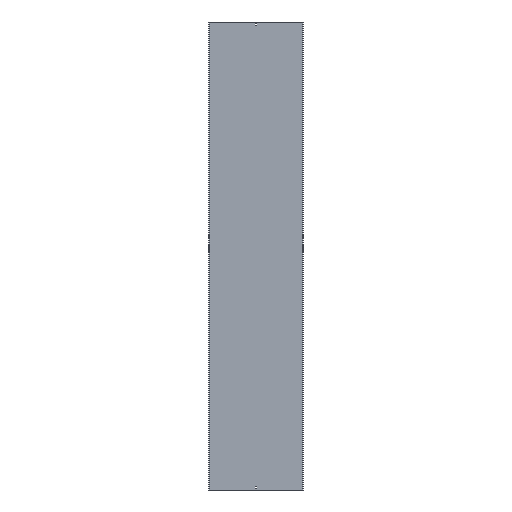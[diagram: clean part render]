
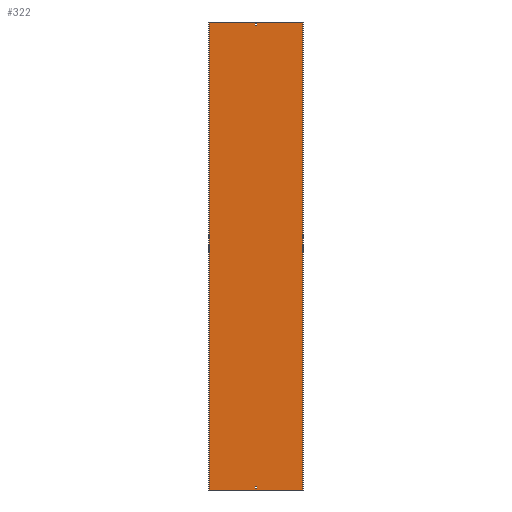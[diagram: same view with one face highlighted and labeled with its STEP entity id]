
A CAD part, front view. The second image highlights one B-rep face of the part: STEP entity #322.
In plain terms, the highlighted planar face has unit normal (0, -1, 0).
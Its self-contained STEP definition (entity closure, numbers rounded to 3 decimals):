
#8 = CARTESIAN_POINT ( 'NONE',  ( -301.5, -1.5, 1479. ) ) ;
#11 = EDGE_CURVE ( 'NONE', #581, #128, #209, .T. ) ;
#12 = FACE_BOUND ( 'NONE', #102, .T. ) ;
#14 = CARTESIAN_POINT ( 'NONE',  ( 300., -1.5, 1500. ) ) ;
#16 = FACE_BOUND ( 'NONE', #182, .T. ) ;
#19 = DIRECTION ( 'NONE',  ( 0., 0., -1. ) ) ;
#21 = ORIENTED_EDGE ( 'NONE', *, *, #11, .T. ) ;
#22 = DIRECTION ( 'NONE',  ( -1., 0., 0. ) ) ;
#28 = VECTOR ( 'NONE', #289, 1000. ) ;
#30 = CARTESIAN_POINT ( 'NONE',  ( -301.5, -1.5, -1488. ) ) ;
#43 = CARTESIAN_POINT ( 'NONE',  ( -3.25, -1.5, -1488. ) ) ;
#47 = CARTESIAN_POINT ( 'NONE',  ( -300., -1.5, -1500. ) ) ;
#48 = AXIS2_PLACEMENT_3D ( 'NONE', #426, #301, #114 ) ;
#52 = EDGE_CURVE ( 'NONE', #200, #443, #574, .T. ) ;
#54 = VECTOR ( 'NONE', #147, 1000. ) ;
#60 = ORIENTED_EDGE ( 'NONE', *, *, #71, .T. ) ;
#71 = EDGE_CURVE ( 'NONE', #445, #80, #82, .T. ) ;
#80 = VERTEX_POINT ( 'NONE', #47 ) ;
#82 = LINE ( 'NONE', #448, #54 ) ;
#90 = CARTESIAN_POINT ( 'NONE',  ( 3.25, -1.5, 1500. ) ) ;
#91 = CARTESIAN_POINT ( 'NONE',  ( 3.25, -1.5, 1479. ) ) ;
#101 = ORIENTED_EDGE ( 'NONE', *, *, #586, .F. ) ;
#102 = EDGE_LOOP ( 'NONE', ( #217, #21, #565, #494 ) ) ;
#108 = VECTOR ( 'NONE', #248, 1000. ) ;
#110 = FACE_OUTER_BOUND ( 'NONE', #529, .T. ) ;
#112 = VECTOR ( 'NONE', #485, 1000. ) ;
#114 = DIRECTION ( 'NONE',  ( 0., 0., -1. ) ) ;
#128 = VERTEX_POINT ( 'NONE', #267 ) ;
#141 = CARTESIAN_POINT ( 'NONE',  ( 3.25, -1.5, 1500. ) ) ;
#147 = DIRECTION ( 'NONE',  ( 0., 0., -1. ) ) ;
#148 = CARTESIAN_POINT ( 'NONE',  ( -3.25, -1.5, 1488. ) ) ;
#152 = EDGE_CURVE ( 'NONE', #370, #445, #551, .T. ) ;
#171 = LINE ( 'NONE', #440, #108 ) ;
#182 = EDGE_LOOP ( 'NONE', ( #520, #386, #101, #342 ) ) ;
#191 = DIRECTION ( 'NONE',  ( 0., 0., -1. ) ) ;
#193 = PLANE ( 'NONE',  #48 ) ;
#195 = VECTOR ( 'NONE', #22, 1000. ) ;
#198 = CARTESIAN_POINT ( 'NONE',  ( 300., -1.5, 1500. ) ) ;
#200 = VERTEX_POINT ( 'NONE', #511 ) ;
#209 = LINE ( 'NONE', #539, #376 ) ;
#217 = ORIENTED_EDGE ( 'NONE', *, *, #477, .T. ) ;
#221 = VECTOR ( 'NONE', #466, 1000. ) ;
#248 = DIRECTION ( 'NONE',  ( -1., 0., 0. ) ) ;
#255 = VERTEX_POINT ( 'NONE', #91 ) ;
#267 = CARTESIAN_POINT ( 'NONE',  ( -3.25, -1.5, -1479. ) ) ;
#279 = DIRECTION ( 'NONE',  ( 0., 0., 1. ) ) ;
#283 = VERTEX_POINT ( 'NONE', #334 ) ;
#289 = DIRECTION ( 'NONE',  ( 1., 0., 0. ) ) ;
#290 = ORIENTED_EDGE ( 'NONE', *, *, #152, .T. ) ;
#293 = EDGE_CURVE ( 'NONE', #443, #484, #298, .T. ) ;
#298 = LINE ( 'NONE', #348, #461 ) ;
#301 = DIRECTION ( 'NONE',  ( 0., -1., 0. ) ) ;
#305 = CARTESIAN_POINT ( 'NONE',  ( -301.5, -1.5, -1479. ) ) ;
#316 = DIRECTION ( 'NONE',  ( 0., 0., 1. ) ) ;
#319 = VECTOR ( 'NONE', #279, 1000. ) ;
#322 = ADVANCED_FACE ( 'NONE', ( #16, #110, #12 ), #193, .T. ) ;
#329 = LINE ( 'NONE', #90, #319 ) ;
#334 = CARTESIAN_POINT ( 'NONE',  ( 3.25, -1.5, -1479. ) ) ;
#337 = EDGE_CURVE ( 'NONE', #128, #283, #530, .T. ) ;
#341 = CARTESIAN_POINT ( 'NONE',  ( 300., -1.5, -1500. ) ) ;
#342 = ORIENTED_EDGE ( 'NONE', *, *, #396, .F. ) ;
#348 = CARTESIAN_POINT ( 'NONE',  ( -3.25, -1.5, 1500. ) ) ;
#356 = ORIENTED_EDGE ( 'NONE', *, *, #410, .F. ) ;
#370 = VERTEX_POINT ( 'NONE', #198 ) ;
#371 = VECTOR ( 'NONE', #515, 1000. ) ;
#376 = VECTOR ( 'NONE', #316, 1000. ) ;
#378 = VECTOR ( 'NONE', #455, 1000. ) ;
#381 = CARTESIAN_POINT ( 'NONE',  ( -300., -1.5, 1500. ) ) ;
#383 = VERTEX_POINT ( 'NONE', #341 ) ;
#386 = ORIENTED_EDGE ( 'NONE', *, *, #52, .F. ) ;
#396 = EDGE_CURVE ( 'NONE', #484, #255, #557, .T. ) ;
#410 = EDGE_CURVE ( 'NONE', #370, #383, #559, .T. ) ;
#416 = VECTOR ( 'NONE', #191, 1000. ) ;
#420 = LINE ( 'NONE', #141, #371 ) ;
#426 = CARTESIAN_POINT ( 'NONE',  ( -301.5, -1.5, 1500. ) ) ;
#435 = EDGE_CURVE ( 'NONE', #283, #543, #420, .T. ) ;
#440 = CARTESIAN_POINT ( 'NONE',  ( -301.5, -1.5, -1500. ) ) ;
#443 = VERTEX_POINT ( 'NONE', #148 ) ;
#445 = VERTEX_POINT ( 'NONE', #381 ) ;
#448 = CARTESIAN_POINT ( 'NONE',  ( -300., -1.5, 1500. ) ) ;
#455 = DIRECTION ( 'NONE',  ( -1., 0., 0. ) ) ;
#461 = VECTOR ( 'NONE', #19, 1000. ) ;
#466 = DIRECTION ( 'NONE',  ( 1., 0., 0. ) ) ;
#477 = EDGE_CURVE ( 'NONE', #543, #581, #481, .T. ) ;
#481 = LINE ( 'NONE', #30, #195 ) ;
#484 = VERTEX_POINT ( 'NONE', #572 ) ;
#485 = DIRECTION ( 'NONE',  ( -1., 0., 0. ) ) ;
#487 = CARTESIAN_POINT ( 'NONE',  ( -301.5, -1.5, 1488. ) ) ;
#494 = ORIENTED_EDGE ( 'NONE', *, *, #435, .T. ) ;
#511 = CARTESIAN_POINT ( 'NONE',  ( 3.25, -1.5, 1488. ) ) ;
#515 = DIRECTION ( 'NONE',  ( 0., 0., -1. ) ) ;
#518 = EDGE_CURVE ( 'NONE', #383, #80, #171, .T. ) ;
#520 = ORIENTED_EDGE ( 'NONE', *, *, #293, .F. ) ;
#529 = EDGE_LOOP ( 'NONE', ( #555, #356, #290, #60 ) ) ;
#530 = LINE ( 'NONE', #305, #221 ) ;
#535 = CARTESIAN_POINT ( 'NONE',  ( -301.5, -1.5, 1500. ) ) ;
#539 = CARTESIAN_POINT ( 'NONE',  ( -3.25, -1.5, 1500. ) ) ;
#543 = VERTEX_POINT ( 'NONE', #591 ) ;
#551 = LINE ( 'NONE', #535, #378 ) ;
#555 = ORIENTED_EDGE ( 'NONE', *, *, #518, .F. ) ;
#557 = LINE ( 'NONE', #8, #28 ) ;
#559 = LINE ( 'NONE', #14, #416 ) ;
#565 = ORIENTED_EDGE ( 'NONE', *, *, #337, .T. ) ;
#572 = CARTESIAN_POINT ( 'NONE',  ( -3.25, -1.5, 1479. ) ) ;
#574 = LINE ( 'NONE', #487, #112 ) ;
#581 = VERTEX_POINT ( 'NONE', #43 ) ;
#586 = EDGE_CURVE ( 'NONE', #255, #200, #329, .T. ) ;
#591 = CARTESIAN_POINT ( 'NONE',  ( 3.25, -1.5, -1488. ) ) ;
